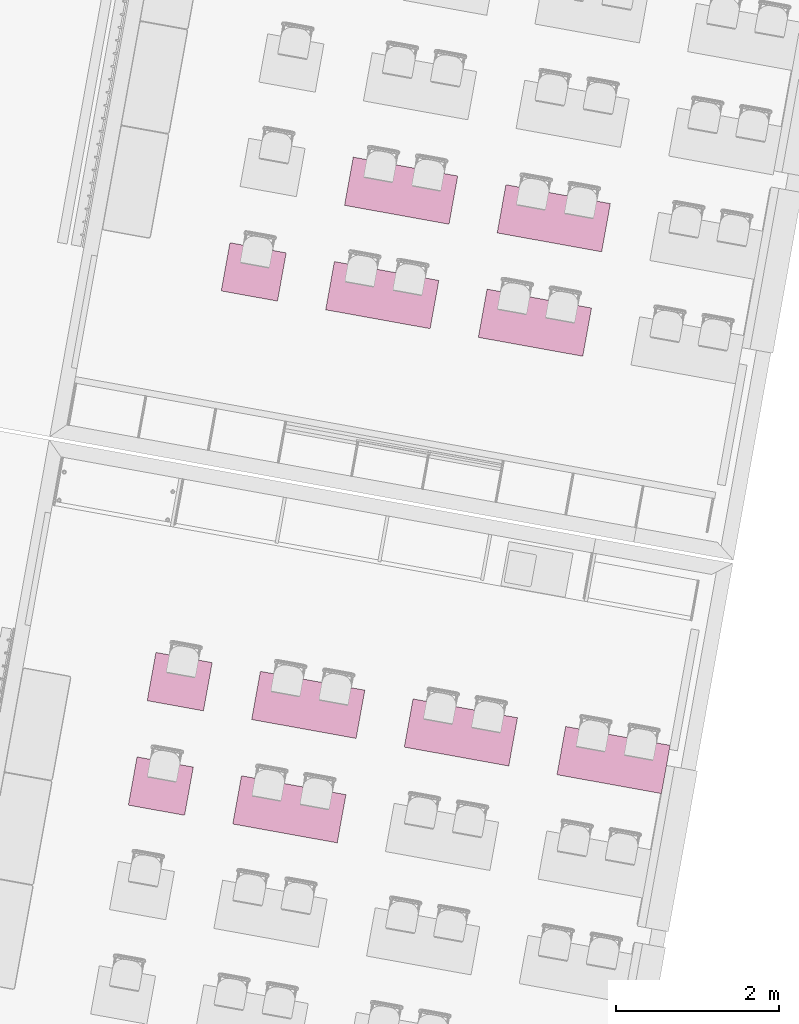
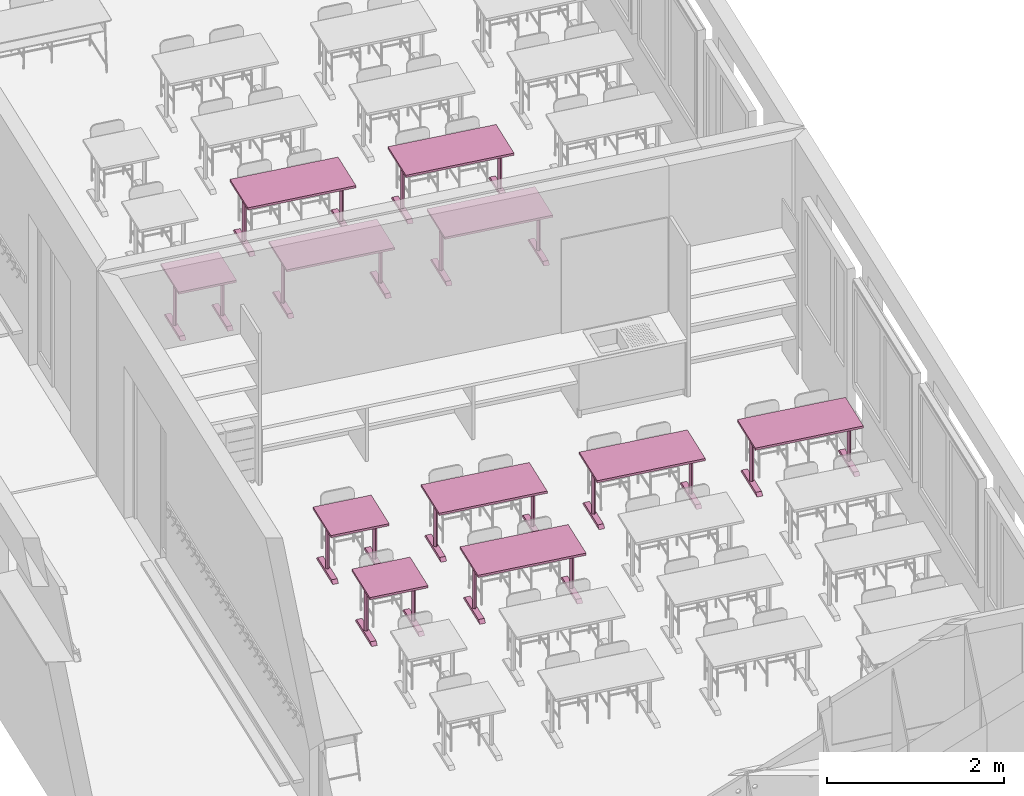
# One storey, part 9 of 79: 11 furnishings.
"""IFC2X3 building model written with IfcOpenShell, lengths in metres."""

from ifc_helpers import new_model, entity, si_unit, converted_unit, derived_unit, money_unit, direction, frame, origin_with_axes, place, context, subcontext, project, spatial, faceted_brep, source, transform, mapped, material, type_object, element, save


model = new_model("IFC2X3")

# Units and contexts
model_context = context("Model", 3, precision=1e-05, world=origin_with_axes(), true_north=direction((0.0, 1.0)))
body_context = subcontext(model_context, "Body", "Model", "MODEL_VIEW")
ifc_project = project(units=[si_unit("LENGTHUNIT", "METRE"), si_unit("AREAUNIT", "SQUARE_METRE"), si_unit("VOLUMEUNIT", "CUBIC_METRE"), converted_unit("PLANEANGLEUNIT", "DEGREE", entity("IfcPlaneAngleMeasure", 0.0174532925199), si_unit("PLANEANGLEUNIT", "RADIAN"), dimensions=[0, 0, 0, 0, 0, 0, 0]), money_unit("CHF"), converted_unit("TIMEUNIT", "Year", entity("IfcTimeMeasure", 31556926.0), si_unit("TIMEUNIT", "SECOND"), dimensions=[0, 0, 1, 0, 0, 0, 0]), si_unit("MASSUNIT", "GRAM", prefix="KILO"), si_unit("THERMODYNAMICTEMPERATUREUNIT", "DEGREE_CELSIUS"), si_unit("LUMINOUSINTENSITYUNIT", "LUMEN"), si_unit("ENERGYUNIT", "JOULE", prefix="MEGA"), derived_unit("THERMALCONDUCTANCEUNIT", [(si_unit("POWERUNIT", "WATT"), 1), (si_unit("LENGTHUNIT", "METRE"), -1), (si_unit("THERMODYNAMICTEMPERATUREUNIT", "KELVIN"), -1)]), derived_unit("SPECIFICHEATCAPACITYUNIT", [(si_unit("ENERGYUNIT", "JOULE"), 1), (si_unit("MASSUNIT", "GRAM", prefix="KILO"), -1), (si_unit("THERMODYNAMICTEMPERATUREUNIT", "KELVIN"), -1)]), derived_unit("MASSDENSITYUNIT", [(si_unit("MASSUNIT", "GRAM", prefix="KILO"), 1), (si_unit("VOLUMEUNIT", "CUBIC_METRE"), -1)])], contexts=[model_context])

# Site, building, storey
site_placement = place(None, frame((0.0, 0.0, 0.0), z_axis=(0.0, 0.0, 1.0), x_axis=(-0.177771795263, -0.984071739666, 0.0)))
site = spatial("IfcSite", under=ifc_project, at=site_placement, Name="Site", CompositionType="ELEMENT")
building_placement = place(site_placement, origin_with_axes())
building = spatial("IfcBuilding", under=site, at=building_placement, Name="Bâtiment", CompositionType="ELEMENT")
storey_placement = place(building_placement, origin_with_axes())
storey = spatial("IfcBuildingStorey", under=building, at=storey_placement, Name="RDC", CompositionType="ELEMENT", Elevation=0.0)

# Furnishings
ifc_material = material(Name="Matériau de construction IFC")
furnishing_element_type = type_object("IfcFurnishingElementType", Name="Table de bureau 21")
shared_shape_1 = source(origin_with_axes(), body_context, "Body", "Brep", [
    faceted_brep([(0.0, 0.0, 0.7), (0.0, 0.0, 0.67), (1.3, 0.0, 0.67), (1.3, 0.0, 0.7), (0.0, 0.6, 0.7), (0.0, 0.6, 0.67), (1.3, 0.6, 0.67), (1.3, 0.6, 0.7)], [[[0, 1, 2, 3]], [[4, 5, 1, 0]], [[1, 5, 6, 2]], [[3, 2, 6, 7]], [[0, 3, 7, 4]], [[7, 6, 5, 4]]]),
    faceted_brep([(0.03, 0.025, 0.0), (0.03, 0.575, 0.0), (0.1, 0.575, 0.0), (0.1, 0.025, 0.0), (0.03, 0.065, 0.04), (0.03, 0.535, 0.04), (0.1, 0.535, 0.04), (0.1, 0.065, 0.04)], [[[0, 1, 2, 3]], [[1, 0, 4, 5]], [[1, 5, 6, 2]], [[3, 2, 6, 7]], [[4, 0, 3, 7]], [[5, 4, 7, 6]]]),
    faceted_brep([(0.09, 0.3, 0.04), (0.065, 0.275, 0.04), (0.04, 0.3, 0.04), (0.065, 0.325, 0.04), (0.09, 0.3, 0.62), (0.065, 0.275, 0.62), (0.04, 0.3, 0.62), (0.065, 0.325, 0.62)], [[[0, 1, 2, 3]], [[1, 0, 4, 5]], [[2, 1, 5, 6]], [[3, 2, 6, 7]], [[0, 3, 7, 4]], [[4, 7, 6, 5]]]),
    faceted_brep([(0.085, 0.3, 0.62), (0.065, 0.28, 0.62), (0.045, 0.3, 0.62), (0.065, 0.32, 0.62), (0.085, 0.3, 0.67), (0.065, 0.28, 0.67), (0.045, 0.3, 0.67), (0.065, 0.32, 0.67)], [[[0, 1, 2, 3]], [[1, 0, 4, 5]], [[2, 1, 5, 6]], [[3, 2, 6, 7]], [[0, 3, 7, 4]], [[4, 7, 6, 5]]]),
    faceted_brep([(1.2, 0.025, 0.0), (1.2, 0.575, 0.0), (1.27, 0.575, 0.0), (1.27, 0.025, 0.0), (1.2, 0.065, 0.04), (1.2, 0.535, 0.04), (1.27, 0.535, 0.04), (1.27, 0.065, 0.04)], [[[0, 1, 2, 3]], [[1, 0, 4, 5]], [[1, 5, 6, 2]], [[3, 2, 6, 7]], [[0, 3, 7, 4]], [[5, 4, 7, 6]]]),
    faceted_brep([(1.26, 0.3, 0.04), (1.235, 0.275, 0.04), (1.21, 0.3, 0.04), (1.235, 0.325, 0.04), (1.26, 0.3, 0.62), (1.235, 0.275, 0.62), (1.21, 0.3, 0.62), (1.235, 0.325, 0.62)], [[[0, 1, 2, 3]], [[1, 0, 4, 5]], [[2, 1, 5, 6]], [[3, 2, 6, 7]], [[0, 3, 7, 4]], [[4, 7, 6, 5]]]),
    faceted_brep([(1.255, 0.3, 0.62), (1.235, 0.28, 0.62), (1.215, 0.3, 0.62), (1.235, 0.32, 0.62), (1.255, 0.3, 0.67), (1.235, 0.28, 0.67), (1.215, 0.3, 0.67), (1.235, 0.32, 0.67)], [[[0, 1, 2, 3]], [[1, 0, 4, 5]], [[2, 1, 5, 6]], [[3, 2, 6, 7]], [[0, 3, 7, 4]], [[4, 7, 6, 5]]]),
])
for number, where, z_axis, x_axis, name in (
    (1, (131.43484124, -151.67715077, 0.0), (0.0, 0.0, 1.0), (0.0, 1.0, 0.0), "bureau-2pl"),
    (2, (126.33484124, -153.577151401, 0.0), (0.0, 0.0, 1.0), (0.0, 1.0, 0.0), "bureau-2pl"),
    (3, (131.43484124, -153.57715077, 0.0), (0.0, 0.0, 1.0), (0.0, 1.0, 0.0), "bureau-2pl"),
    (4, (132.73484124, -153.57715077, 0.0), (0.0, 0.0, 1.0), (0.0, 1.0, 0.0), "bureau-2pl"),
    (5, (131.43484124, -149.77715077, 0.0), (0.0, 0.0, 1.0), (0.0, 1.0, 0.0), "bureau-2pl"),
    (6, (125.03484124, -153.577151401, 0.0), (0.0, 0.0, 1.0), (0.0, 1.0, 0.0), "bureau-2pl"),
    (7, (125.03484124, -151.677151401, 0.0), (0.0, 0.0, 1.0), (0.0, 1.0, 0.0), "bureau-2pl"),
    (8, (126.33484124, -151.677151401, 0.0), (0.0, 0.0, 1.0), (0.0, 1.0, 0.0), "bureau-2pl"),
):
    element("IfcFurnishingElement", number, at=place(storey_placement, frame(where, z_axis=z_axis, x_axis=x_axis)), inside=storey, type_object=furnishing_element_type, material=ifc_material, Name=name, ObjectType="SYSTEM_FURNITURE", context=body_context, shape_type="MappedRepresentation", body=[
        mapped(shared_shape_1, transform((0.0, 0.0, 0.0))),
    ])
shared_shape_2 = source(origin_with_axes(), body_context, "Body", "Brep", [
    faceted_brep([(0.0, 0.0, 0.7), (0.0, 0.0, 0.67), (0.7, 0.0, 0.67), (0.7, 0.0, 0.7), (0.0, 0.6, 0.7), (0.0, 0.6, 0.67), (0.7, 0.6, 0.67), (0.7, 0.6, 0.7)], [[[0, 1, 2, 3]], [[4, 5, 1, 0]], [[1, 5, 6, 2]], [[3, 2, 6, 7]], [[0, 3, 7, 4]], [[7, 6, 5, 4]]]),
    faceted_brep([(0.03, 0.025, 0.0), (0.03, 0.575, 0.0), (0.1, 0.575, 0.0), (0.1, 0.025, 0.0), (0.03, 0.065, 0.04), (0.03, 0.535, 0.04), (0.1, 0.535, 0.04), (0.1, 0.065, 0.04)], [[[0, 1, 2, 3]], [[1, 0, 4, 5]], [[1, 5, 6, 2]], [[3, 2, 6, 7]], [[4, 0, 3, 7]], [[5, 4, 7, 6]]]),
    faceted_brep([(0.09, 0.3, 0.04), (0.065, 0.275, 0.04), (0.04, 0.3, 0.04), (0.065, 0.325, 0.04), (0.09, 0.3, 0.62), (0.065, 0.275, 0.62), (0.04, 0.3, 0.62), (0.065, 0.325, 0.62)], [[[0, 1, 2, 3]], [[1, 0, 4, 5]], [[2, 1, 5, 6]], [[3, 2, 6, 7]], [[0, 3, 7, 4]], [[4, 7, 6, 5]]]),
    faceted_brep([(0.085, 0.3, 0.62), (0.065, 0.28, 0.62), (0.045, 0.3, 0.62), (0.065, 0.32, 0.62), (0.085, 0.3, 0.67), (0.065, 0.28, 0.67), (0.045, 0.3, 0.67), (0.065, 0.32, 0.67)], [[[0, 1, 2, 3]], [[1, 0, 4, 5]], [[2, 1, 5, 6]], [[3, 2, 6, 7]], [[0, 3, 7, 4]], [[4, 7, 6, 5]]]),
    faceted_brep([(0.6, 0.025, 0.0), (0.6, 0.575, 0.0), (0.67, 0.575, 0.0), (0.67, 0.025, 0.0), (0.6, 0.065, 0.04), (0.6, 0.535, 0.04), (0.67, 0.535, 0.04), (0.67, 0.065, 0.04)], [[[0, 1, 2, 3]], [[1, 0, 4, 5]], [[1, 5, 6, 2]], [[3, 2, 6, 7]], [[4, 0, 3, 7]], [[5, 4, 7, 6]]]),
    faceted_brep([(0.66, 0.3, 0.04), (0.635, 0.275, 0.04), (0.61, 0.3, 0.04), (0.635, 0.325, 0.04), (0.66, 0.3, 0.62), (0.635, 0.275, 0.62), (0.61, 0.3, 0.62), (0.635, 0.325, 0.62)], [[[0, 1, 2, 3]], [[1, 0, 4, 5]], [[2, 1, 5, 6]], [[3, 2, 6, 7]], [[0, 3, 7, 4]], [[4, 7, 6, 5]]]),
    faceted_brep([(0.655, 0.3, 0.62), (0.635, 0.28, 0.62), (0.615, 0.3, 0.62), (0.635, 0.32, 0.62), (0.655, 0.3, 0.67), (0.635, 0.28, 0.67), (0.615, 0.3, 0.67), (0.635, 0.32, 0.67)], [[[0, 1, 2, 3]], [[1, 0, 4, 5]], [[2, 1, 5, 6]], [[3, 2, 6, 7]], [[0, 3, 7, 4]], [[4, 7, 6, 5]]]),
])
for number, where, z_axis, x_axis, name in (
    (9, (131.43484124, -154.87715077, 0.0), (0.0, 0.0, 1.0), (0.0, 1.0, 0.0), "bureau-2pl"),
    (10, (126.33484124, -154.877151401, 0.0), (0.0, 0.0, 1.0), (0.0, 1.0, 0.0), "bureau-2pl"),
    (11, (132.73484124, -154.87715077, 0.0), (0.0, 0.0, 1.0), (0.0, 1.0, 0.0), "bureau-2pl"),
):
    element("IfcFurnishingElement", number, at=place(storey_placement, frame(where, z_axis=z_axis, x_axis=x_axis)), inside=storey, type_object=furnishing_element_type, material=ifc_material, Name=name, ObjectType="SYSTEM_FURNITURE", context=body_context, shape_type="MappedRepresentation", body=[
        mapped(shared_shape_2, transform((0.0, 0.0, 0.0))),
    ])

save(model, "model.ifc")
